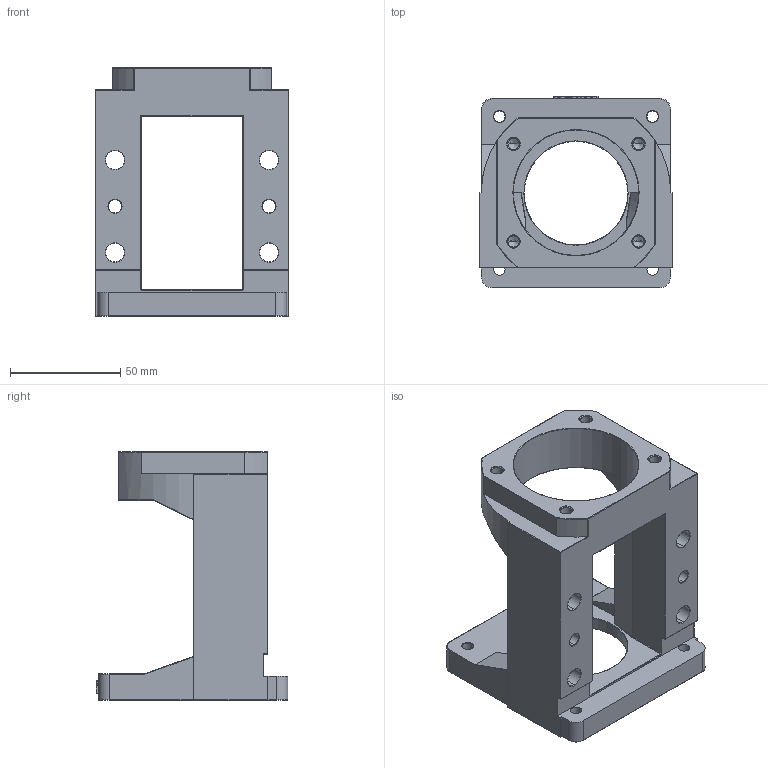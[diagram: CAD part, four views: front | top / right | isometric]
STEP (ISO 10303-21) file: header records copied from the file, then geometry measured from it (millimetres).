
FILE_DESCRIPTION(/* description */ (''),/* implementation_level */ '2;1');
FILE_NAME(/* name */ 'M85F-FKA20-A.stp',/* time_stamp */ '2016-10-27T10:30:08+08:00',/* author */ (''),/* organization */ (''),/* preprocessor_version */ 'ST-DEVELOPER v15',/* originating_system */ 'SIEMENS PLM Software NX 8.5',/* authorisation */ '');
FILE_SCHEMA (('CONFIG_CONTROL_DESIGN'));
Length unit declared in the file: millimetre
Products named in the file (1): MBA20-F
Bounding box: 88 x 87 x 113 mm (x, y, z)
Volume: 210499.4 mm3; surface area: 54774.8 mm2
Topology: 1 solids, 1 shells, 367 faces, 904 edges, 540 vertices
Faces by surface type: cylinder 118, plane 107, torus 59, extrusion 41, cone 26, sphere 10, bspline 6
Full cylindrical faces by diameter (mm): 8 x2
Entity records: 11548 total; most frequent: CARTESIAN_POINT 3230, ORIENTED_EDGE 1768, DIRECTION 1606, EDGE_CURVE 884, AXIS2_PLACEMENT_3D 610, VERTEX_POINT 540, EDGE_LOOP 414, VECTOR 386
